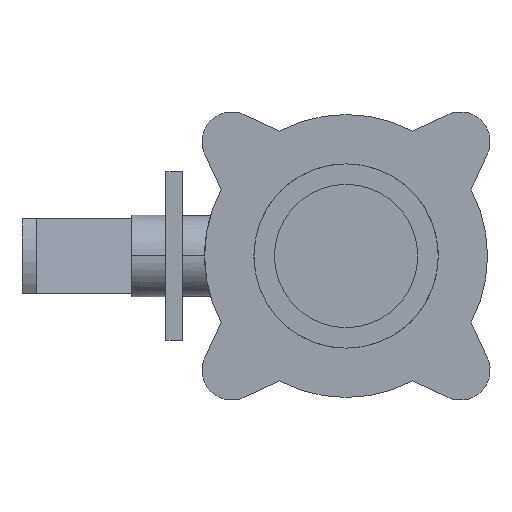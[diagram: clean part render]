
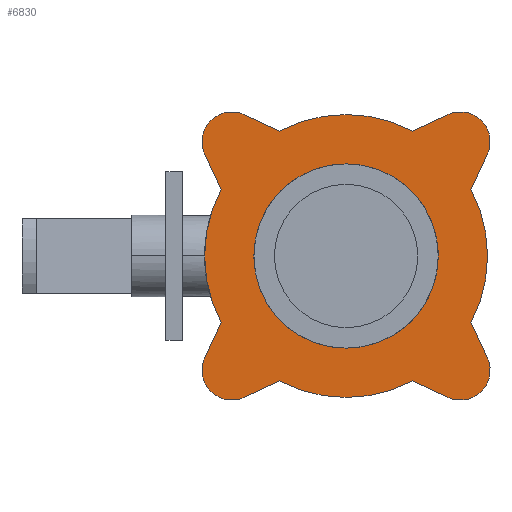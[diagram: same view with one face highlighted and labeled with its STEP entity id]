
A CAD part, left-side view. The second image highlights one B-rep face of the part: STEP entity #6830.
In plain terms, the highlighted planar face has unit normal (-1, 0, 0) as drawn and (0, 1, 0) by its records, which use the part's own axes.
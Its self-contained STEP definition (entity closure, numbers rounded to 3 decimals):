
#200=CARTESIAN_POINT('',(56.919,11.,17.336));
#210=VERTEX_POINT('',#200);
#240=CARTESIAN_POINT('',(0.,11.,38.052));
#250=DIRECTION('',(-0.94,0.,0.342));
#260=VECTOR('',#250,1.);
#270=LINE('',#240,#260);
#280=CARTESIAN_POINT('',(72.275,11.,11.746));
#290=VERTEX_POINT('',#280);
#300=EDGE_CURVE('',#290,#210,#270,.T.);
#1000=CARTESIAN_POINT('',(-17.336,11.,56.919));
#1010=VERTEX_POINT('',#1000);
#1040=CARTESIAN_POINT('',(-38.052,11.,0.));
#1050=DIRECTION('',(0.342,0.,0.94));
#1060=VECTOR('',#1050,1.);
#1070=LINE('',#1040,#1060);
#1080=CARTESIAN_POINT('',(-11.746,11.,72.275));
#1090=VERTEX_POINT('',#1080);
#1100=EDGE_CURVE('',#1010,#1090,#1070,.T.);
#2790=CARTESIAN_POINT('',(0.,11.,68.));
#2800=DIRECTION('',(0.,1.,0.));
#2810=DIRECTION('',(0.,0.,1.));
#2820=AXIS2_PLACEMENT_3D('',#2790,#2800,#2810);
#2830=CIRCLE('',#2820,12.5);
#2840=CARTESIAN_POINT('',(11.746,11.,72.275));
#2850=VERTEX_POINT('',#2840);
#2860=EDGE_CURVE('',#1090,#2850,#2830,.T.);
#3770=CARTESIAN_POINT('',(68.,11.,0.));
#3780=DIRECTION('',(0.,1.,0.));
#3790=DIRECTION('',(0.,0.,1.));
#3800=AXIS2_PLACEMENT_3D('',#3770,#3780,#3790);
#3810=CIRCLE('',#3800,12.5);
#3820=CARTESIAN_POINT('',(72.275,11.,-11.746));
#3830=VERTEX_POINT('',#3820);
#3840=EDGE_CURVE('',#290,#3830,#3810,.T.);
#4860=CARTESIAN_POINT('',(0.,11.,-38.052));
#4870=DIRECTION('',(0.94,0.,0.342));
#4880=VECTOR('',#4870,1.);
#4890=LINE('',#4860,#4880);
#4900=CARTESIAN_POINT('',(56.919,11.,-17.336));
#4910=VERTEX_POINT('',#4900);
#4920=EDGE_CURVE('',#4910,#3830,#4890,.T.);
#5130=CARTESIAN_POINT('',(17.336,11.,-56.919));
#5140=VERTEX_POINT('',#5130);
#5170=CARTESIAN_POINT('',(38.052,11.,0.));
#5180=DIRECTION('',(-0.342,0.,
-0.94));
#5190=VECTOR('',#5180,1.);
#5200=LINE('',#5170,#5190);
#5210=CARTESIAN_POINT('',(11.746,11.,
-72.275));
#5220=VERTEX_POINT('',#5210);
#5230=EDGE_CURVE('',#5140,#5220,#5200,.T.);
#5440=CARTESIAN_POINT('',(-56.919,11.,17.336));
#5450=VERTEX_POINT('',#5440);
#5480=CARTESIAN_POINT('',(0.,11.,0.));
#5490=DIRECTION('',(0.,1.,0.));
#5500=DIRECTION('',(0.,0.,1.));
#5510=AXIS2_PLACEMENT_3D('',#5480,#5490,#5500);
#5520=CIRCLE('',#5510,59.5);
#5530=EDGE_CURVE('',#5450,#1010,#5520,.T.);
#5660=CARTESIAN_POINT('',(0.,11.,-68.));
#5670=DIRECTION('',(0.,1.,0.));
#5680=DIRECTION('',(0.,0.,1.));
#5690=AXIS2_PLACEMENT_3D('',#5660,#5670,#5680);
#5700=CIRCLE('',#5690,12.5);
#5710=CARTESIAN_POINT('',(-11.746,11.,
-72.275));
#5720=VERTEX_POINT('',#5710);
#5730=EDGE_CURVE('',#5220,#5720,#5700,.T.);
#5910=CARTESIAN_POINT('',(38.052,11.,0.));
#5920=DIRECTION('',(-0.342,0.,0.94));
#5930=VECTOR('',#5920,1.);
#5940=LINE('',#5910,#5930);
#5950=CARTESIAN_POINT('',(17.336,11.,56.919));
#5960=VERTEX_POINT('',#5950);
#5970=EDGE_CURVE('',#5960,#2850,#5940,.T.);
#6080=CARTESIAN_POINT('',(0.,11.,0.));
#6090=DIRECTION('',(0.,1.,0.));
#6100=DIRECTION('',(0.,0.,1.));
#6110=AXIS2_PLACEMENT_3D('',#6080,#6090,#6100);
#6120=PLANE('',#6110);
#6130=CARTESIAN_POINT('',(0.,11.,0.));
#6140=DIRECTION('',(0.,1.,0.));
#6150=DIRECTION('',(0.,0.,1.));
#6160=AXIS2_PLACEMENT_3D('',#6130,#6140,#6150);
#6170=CIRCLE('',#6160,59.5);
#6180=EDGE_CURVE('',#5960,#210,#6170,.T.);
#6190=ORIENTED_EDGE('',*,*,#6180,.T.);
#6200=ORIENTED_EDGE('',*,*,#5970,.F.);
#6210=ORIENTED_EDGE('',*,*,#2860,.T.);
#6220=ORIENTED_EDGE('',*,*,#1100,.T.);
#6230=ORIENTED_EDGE('',*,*,#5530,.T.);
#6240=CARTESIAN_POINT('',(0.,11.,38.052));
#6250=DIRECTION('',(0.94,0.,0.342));
#6260=VECTOR('',#6250,1.);
#6270=LINE('',#6240,#6260);
#6280=CARTESIAN_POINT('',(-72.275,11.,11.746));
#6290=VERTEX_POINT('',#6280);
#6300=EDGE_CURVE('',#6290,#5450,#6270,.T.);
#6310=ORIENTED_EDGE('',*,*,#6300,.T.);
#6320=CARTESIAN_POINT('',(-68.,11.,0.));
#6330=DIRECTION('',(0.,1.,0.));
#6340=DIRECTION('',(0.,0.,1.));
#6350=AXIS2_PLACEMENT_3D('',#6320,#6330,#6340);
#6360=CIRCLE('',#6350,12.5);
#6370=CARTESIAN_POINT('',(-72.275,11.,
-11.746));
#6380=VERTEX_POINT('',#6370);
#6390=EDGE_CURVE('',#6380,#6290,#6360,.T.);
#6400=ORIENTED_EDGE('',*,*,#6390,.T.);
#6410=CARTESIAN_POINT('',(0.,11.,-38.052));
#6420=DIRECTION('',(-0.94,0.,
0.342));
#6430=VECTOR('',#6420,1.);
#6440=LINE('',#6410,#6430);
#6450=CARTESIAN_POINT('',(-56.919,11.,-17.336));
#6460=VERTEX_POINT('',#6450);
#6470=EDGE_CURVE('',#6460,#6380,#6440,.T.);
#6480=ORIENTED_EDGE('',*,*,#6470,.T.);
#6490=CARTESIAN_POINT('',(-17.336,11.,-56.919));
#6500=VERTEX_POINT('',#6490);
#6510=EDGE_CURVE('',#6500,#6460,#5520,.T.);
#6520=ORIENTED_EDGE('',*,*,#6510,.T.);
#6530=CARTESIAN_POINT('',(-38.052,11.,0.));
#6540=DIRECTION('',(-0.342,0.,0.94));
#6550=VECTOR('',#6540,1.);
#6560=LINE('',#6530,#6550);
#6570=EDGE_CURVE('',#5720,#6500,#6560,.T.);
#6580=ORIENTED_EDGE('',*,*,#6570,.T.);
#6590=ORIENTED_EDGE('',*,*,#5730,.T.);
#6600=ORIENTED_EDGE('',*,*,#5230,.T.);
#6610=EDGE_CURVE('',#4910,#5140,#5520,.T.);
#6620=ORIENTED_EDGE('',*,*,#6610,.T.);
#6630=ORIENTED_EDGE('',*,*,#4920,.F.);
#6640=ORIENTED_EDGE('',*,*,#3840,.T.);
#6650=ORIENTED_EDGE('',*,*,#300,.F.);
#6660=EDGE_LOOP('',(#6650,#6640,#6630,#6620,#6600,#6590,#6580,#6520,
#6480,#6400,#6310,#6230,#6220,#6210,#6200,#6190));
#6670=FACE_OUTER_BOUND('',#6660,.T.);
#6680=CARTESIAN_POINT('',(0.,11.,0.
));
#6690=DIRECTION('',(0.,1.,0.));
#6700=DIRECTION('',(0.707,0.,0.707));
#6710=AXIS2_PLACEMENT_3D('',#6680,#6690,#6700);
#6720=CIRCLE('',#6710,31.75);
#6730=CARTESIAN_POINT('',(-22.451,11.,-22.451));
#6740=VERTEX_POINT('',#6730);
#6750=CARTESIAN_POINT('',(22.451,11.,22.451));
#6760=VERTEX_POINT('',#6750);
#6770=EDGE_CURVE('',#6740,#6760,#6720,.T.);
#6780=ORIENTED_EDGE('',*,*,#6770,.F.);
#6790=EDGE_CURVE('',#6760,#6740,#6720,.T.);
#6800=ORIENTED_EDGE('',*,*,#6790,.F.);
#6810=EDGE_LOOP('',(#6800,#6780));
#6820=FACE_BOUND('',#6810,.T.);
#6830=ADVANCED_FACE('',(#6670,#6820),#6120,.T.);
